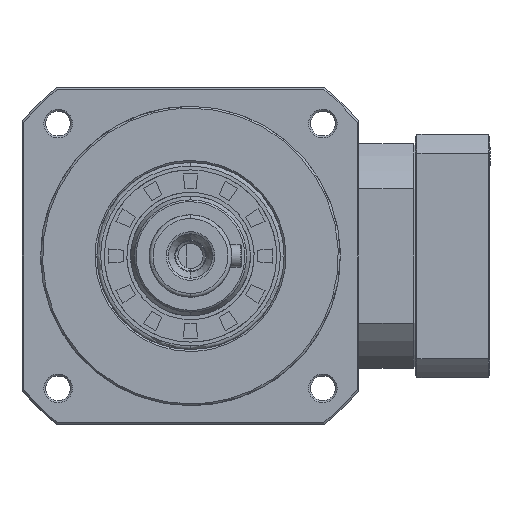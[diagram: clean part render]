
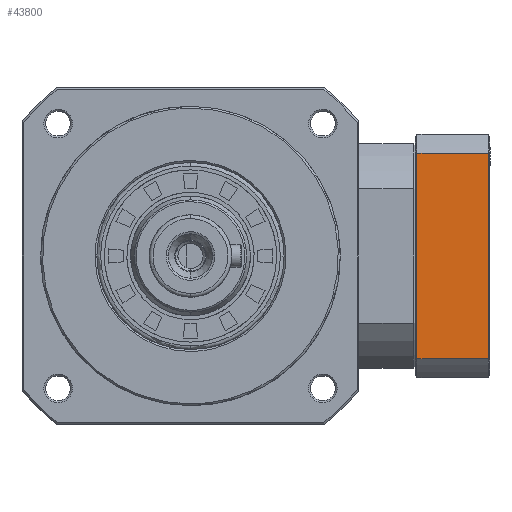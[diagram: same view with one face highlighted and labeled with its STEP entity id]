
A CAD part, left-side view. The second image highlights one B-rep face of the part: STEP entity #43800.
In plain terms, the highlighted planar face has unit normal (1, 0, 0).
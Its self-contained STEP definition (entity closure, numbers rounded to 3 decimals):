
#5377 = ORIENTED_EDGE ( 'NONE', *, *, #31007, .F. ) ;
#5566 = CARTESIAN_POINT ( 'NONE',  ( 134.5, -79.5, 0. ) ) ;
#9357 = VECTOR ( 'NONE', #50019, 1000. ) ;
#10646 = CARTESIAN_POINT ( 'NONE',  ( 134.5, -60.5, -27.386 ) ) ;
#16916 = EDGE_CURVE ( 'NONE', #85207, #25908, #88400, .T. ) ;
#20998 = CARTESIAN_POINT ( 'NONE',  ( 134.5, -60.5, 0. ) ) ;
#25908 = VERTEX_POINT ( 'NONE', #100603 ) ;
#26551 = DIRECTION ( 'NONE',  ( 0., -1., 0. ) ) ;
#31007 = EDGE_CURVE ( 'NONE', #83214, #25908, #47921, .T. ) ;
#31490 = PLANE ( 'NONE',  #79709 ) ;
#33283 = EDGE_CURVE ( 'NONE', #85207, #59655, #98736, .T. ) ;
#40960 = VECTOR ( 'NONE', #26551, 1000. ) ;
#41624 = CARTESIAN_POINT ( 'NONE',  ( 134.5, -70., -27.386 ) ) ;
#41646 = CARTESIAN_POINT ( 'NONE',  ( 134.5, -70., 27.386 ) ) ;
#43800 = ADVANCED_FACE ( 'NONE', ( #55492 ), #31490, .T. ) ;
#45629 = EDGE_LOOP ( 'NONE', ( #74124, #75817, #5377, #50811 ) ) ;
#47921 = LINE ( 'NONE', #5566, #59117 ) ;
#50019 = DIRECTION ( 'NONE',  ( 0., 1., 0. ) ) ;
#50811 = ORIENTED_EDGE ( 'NONE', *, *, #59278, .T. ) ;
#55492 = FACE_OUTER_BOUND ( 'NONE', #45629, .T. ) ;
#58823 = VECTOR ( 'NONE', #93286, 1000. ) ;
#59117 = VECTOR ( 'NONE', #100919, 1000. ) ;
#59278 = EDGE_CURVE ( 'NONE', #83214, #59655, #73174, .T. ) ;
#59655 = VERTEX_POINT ( 'NONE', #10646 ) ;
#61362 = CARTESIAN_POINT ( 'NONE',  ( 134.5, -79.5, -27.386 ) ) ;
#68009 = CARTESIAN_POINT ( 'NONE',  ( 134.5, -60.5, 27.386 ) ) ;
#73174 = LINE ( 'NONE', #41624, #9357 ) ;
#74124 = ORIENTED_EDGE ( 'NONE', *, *, #33283, .F. ) ;
#75817 = ORIENTED_EDGE ( 'NONE', *, *, #16916, .T. ) ;
#79709 = AXIS2_PLACEMENT_3D ( 'NONE', #103378, #87347, #95357 ) ;
#83214 = VERTEX_POINT ( 'NONE', #61362 ) ;
#85207 = VERTEX_POINT ( 'NONE', #68009 ) ;
#87347 = DIRECTION ( 'NONE',  ( 1., 0., 0. ) ) ;
#88400 = LINE ( 'NONE', #41646, #40960 ) ;
#93286 = DIRECTION ( 'NONE',  ( 0., 0., -1. ) ) ;
#95357 = DIRECTION ( 'NONE',  ( 0., 0., -1. ) ) ;
#98736 = LINE ( 'NONE', #20998, #58823 ) ;
#100603 = CARTESIAN_POINT ( 'NONE',  ( 134.5, -79.5, 27.386 ) ) ;
#100919 = DIRECTION ( 'NONE',  ( 0., 0., 1. ) ) ;
#103378 = CARTESIAN_POINT ( 'NONE',  ( 134.5, -79.5, 27.386 ) ) ;
